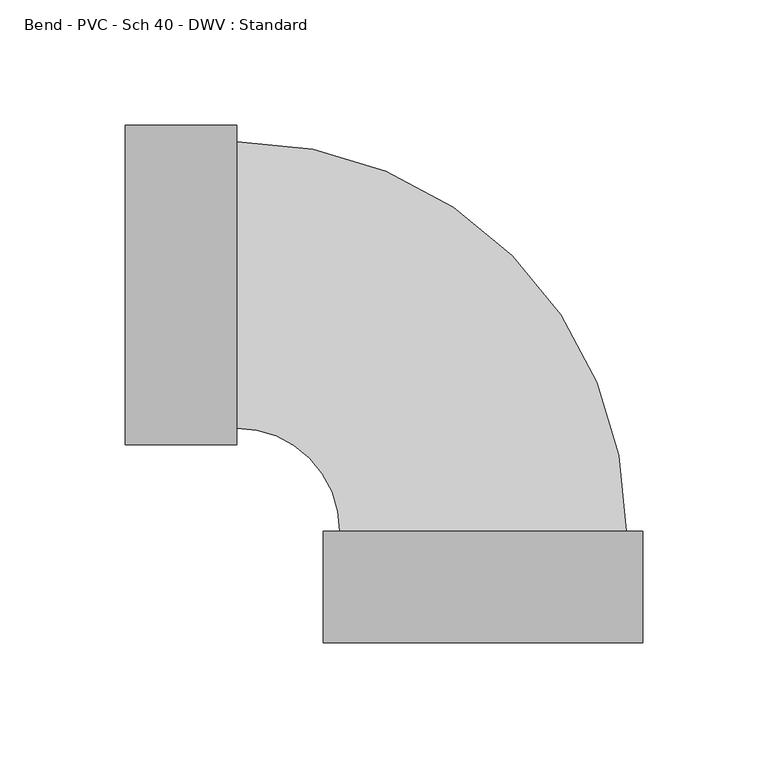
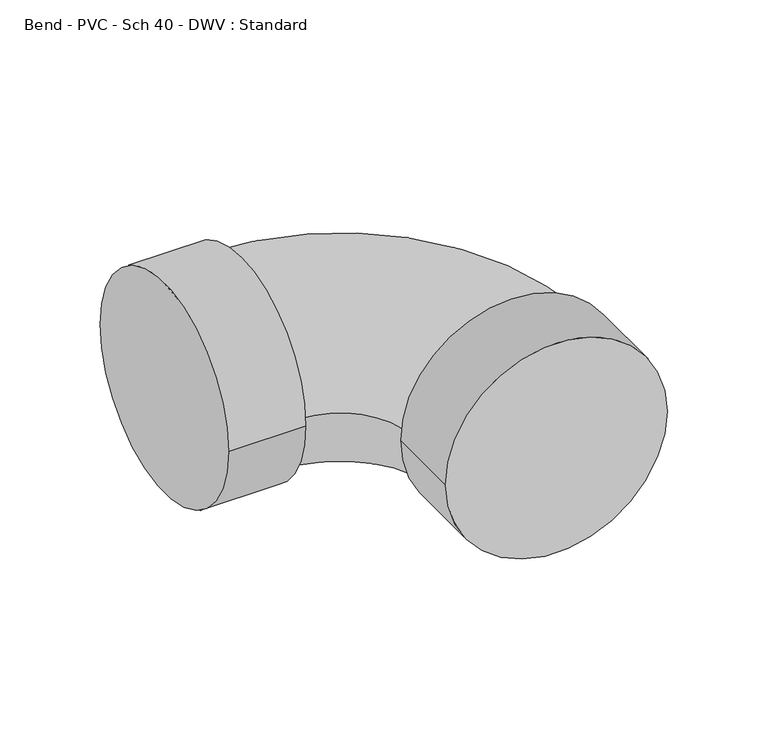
"""IFC4 building model written with IfcOpenShell, lengths in millimetres: pipe fitting geometry, Bend - PVC - Sch 40 - DWV : Standard."""

from ifc_helpers import new_model, si_unit, point, frame, origin, place, context, project, spatial, circle_curve, ellipse_curve, trimmed, source, transform, mapped, element, save
from ifc_brep_helpers import plane_surface, cylinder_surface, revolved_surface, advanced_brep


def bend_pvc_sch_40_dwv_standard_020419e1(model_context):
    return source(origin(), model_context, "Body", "AdvancedBrep", [
        advanced_brep(
        [(-142.875, 63.754, 0.0), (-142.875, -63.754, 0.0), (-98.425, 63.754, 0.0), (-98.425, -63.754, 0.0), (-98.425, 57.15, 0.0), (-98.425, -57.15, 0.0), (-57.15, -98.425, 0.0), (57.15, -98.425, 0.0), (63.754, -98.425, 0.0), (-63.754, -98.425, 0.0), (63.754, -142.875, 0.0), (-63.754, -142.875, 0.0)],
        [
            (0, 1, circle_curve(frame((-142.875, 0.0, 0.0), z_axis=(-1.0, 0.0, 0.0), x_axis=(0.0, -1.0, 0.0)), 63.754)),
            (1, 0, circle_curve(frame((-142.875, 0.0, 0.0), z_axis=(-1.0, 0.0, 0.0), x_axis=(0.0, -1.0, 0.0)), 63.754)),
            (2, 3, circle_curve(frame((-98.425, 0.0, 0.0), z_axis=(1.0, 0.0, 0.0), x_axis=(0.0, -1.0, 0.0)), 63.754)),
            (3, 2, circle_curve(frame((-98.425, 0.0, 0.0), z_axis=(1.0, 0.0, 0.0), x_axis=(0.0, -1.0, 0.0)), 63.754)),
            (4, 5, circle_curve(frame((-98.425, 0.0, 0.0), z_axis=(-1.0, 0.0, 0.0), x_axis=(0.0, -1.0, 0.0)), 57.15)),
            (5, 4, circle_curve(frame((-98.425, 0.0, 0.0), z_axis=(-1.0, 0.0, 0.0), x_axis=(0.0, -1.0, 0.0)), 57.15)),
            (1, 3),
            (2, 0),
            (6, 7, circle_curve(frame((0.0, -98.425, 0.0), z_axis=(0.0, 1.0, 0.0), x_axis=(-1.0, 0.0, 0.0)), 57.15)),
            (7, 4, circle_curve(frame((-98.425, -98.425, 0.0), z_axis=(0.0, 0.0, 1.0), x_axis=(0.0, 1.0, 0.0)), 155.575)),
            (5, 6, circle_curve(frame((-98.425, -98.425, 0.0), z_axis=(0.0, 0.0, -1.0), x_axis=(0.0, 1.0, 0.0)), 41.275)),
            (7, 6, circle_curve(frame((0.0, -98.425, 0.0), z_axis=(0.0, 1.0, 0.0), x_axis=(-1.0, 0.0, 0.0)), 57.15)),
            (8, 9, circle_curve(frame((0.0, -98.425, 0.0), z_axis=(0.0, 1.0, 0.0), x_axis=(-1.0, 0.0, 0.0)), 63.754)),
            (9, 8, circle_curve(frame((0.0, -98.425, 0.0), z_axis=(0.0, 1.0, 0.0), x_axis=(-1.0, 0.0, 0.0)), 63.754)),
            (10, 11, circle_curve(frame((0.0, -142.875, 0.0), z_axis=(0.0, -1.0, 0.0), x_axis=(-1.0, 0.0, 0.0)), 63.754)),
            (11, 10, circle_curve(frame((0.0, -142.875, 0.0), z_axis=(0.0, -1.0, 0.0), x_axis=(-1.0, 0.0, 0.0)), 63.754)),
            (9, 11),
            (10, 8),
        ],
        [
            plane_surface(frame((-142.875, 0.0, 0.0), z_axis=(-1.0, 0.0, 0.0), x_axis=(0.0, 0.0, 1.0))),
            plane_surface(frame((-98.425, 0.0, 0.0), z_axis=(1.0, 0.0, 0.0), x_axis=(0.0, 0.0, 1.0))),
            cylinder_surface(frame((-142.875, 0.0, 0.0), z_axis=(-1.0, 0.0, 0.0), x_axis=(0.0, -1.0, 0.0)), 63.754),
            revolved_surface(trimmed(ellipse_curve(frame((-98.425, 0.0, 0.0), z_axis=(1.0, 0.0, 0.0), x_axis=(0.0, -1.0, 0.0)), 57.15, 57.15), [point((-98.425, 57.15, 0.0))], [point((-98.425, -57.15, 0.0))], True, "CARTESIAN"), (-98.425, -98.425, 0.0), (0.0, 0.0, 1.0)),
            revolved_surface(trimmed(ellipse_curve(frame((-98.425, 0.0, 0.0), z_axis=(1.0, 0.0, 0.0), x_axis=(0.0, -1.0, 0.0)), 57.15, 57.15), [point((-98.425, -57.15, 0.0))], [point((-98.425, 57.15, 0.0))], True, "CARTESIAN"), (-98.425, -98.425, 0.0), (0.0, 0.0, 1.0)),
            plane_surface(frame((0.0, -98.425, 0.0), z_axis=(0.0, 1.0, 0.0), x_axis=(0.0, 0.0, 1.0))),
            plane_surface(frame((0.0, -142.875, 0.0), z_axis=(0.0, -1.0, 0.0), x_axis=(0.0, 0.0, 1.0))),
            cylinder_surface(frame((0.0, -98.425, 0.0), z_axis=(0.0, 1.0, 0.0), x_axis=(-1.0, 0.0, 0.0)), 63.754),
        ],
        [
            (0, [[1, 2]]),
            (1, [[3, 4], [5, 6]]),
            (2, [[7, -3, 8, -2]]),
            (2, [[-8, -4, -7, -1]]),
            (3, [[9, 10, -6, 11]]),
            (4, [[-5, -10, 12, -11]]),
            (5, [[13, 14], [-12, -9]]),
            (6, [[15, 16]]),
            (7, [[17, -15, 18, -14]]),
            (7, [[-18, -16, -17, -13]]),
        ],
    ),
    ])


if __name__ == "__main__":
    model = new_model("IFC4")
    model_context = context("Model", 3, world=origin())
    ifc_project = project(units=[si_unit("LENGTHUNIT", "METRE", prefix="MILLI")], contexts=[model_context])
    site = spatial("IfcSite", under=ifc_project)
    building = spatial("IfcBuilding", under=site)
    placement = place(None, origin())
    bend_pvc_sch_40_dwv_standard_shape = bend_pvc_sch_40_dwv_standard_020419e1(model_context)
    element("IfcPipeFitting", 1, ObjectType="Bend - PVC - Sch 40 - DWV : Standard", at=placement, inside=building, context=model_context, shape_type="MappedRepresentation", body=[
        mapped(bend_pvc_sch_40_dwv_standard_shape, transform((0.0, 0.0, 0.0), x_axis=(1.0, 0.0, 0.0), y_axis=(0.0, 1.0, 0.0), z_axis=(0.0, 0.0, 1.0))),
    ])
    save(model, "model.ifc")
